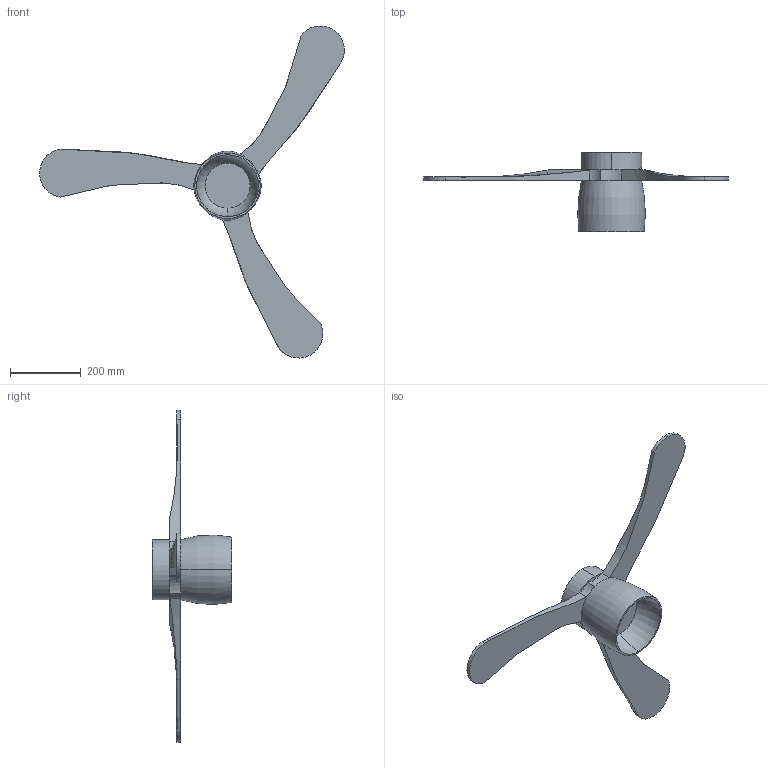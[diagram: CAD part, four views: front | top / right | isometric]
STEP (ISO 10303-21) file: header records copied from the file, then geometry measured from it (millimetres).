
FILE_DESCRIPTION (( 'STEP AP203' ), '1' );
FILE_NAME ('Nordic Wooden Ceiling Fan Light-42.STEP', '2025-01-17T02:51:49', ( '' ), ( '' ), 'SwSTEP 2.0', 'SolidWorks 2022', '' );
FILE_SCHEMA (( 'CONFIG_CONTROL_DESIGN' ));
Length unit declared in the file: millimetre
Products named in the file (1): Nordic Wooden Ceiling Fan Light-42
Bounding box: 862.59 x 225 x 939.52 mm (x, y, z)
Volume: 5930032.1 mm3; surface area: 543773.6 mm2
Topology: 2 solids, 2 shells, 54 faces, 114 edges, 63 vertices
Faces by surface type: cylinder 19, plane 18, bspline 15, torus 2
Entity records: 2536 total; most frequent: CARTESIAN_POINT 1400, ORIENTED_EDGE 222, DIRECTION 208, EDGE_CURVE 111, AXIS2_PLACEMENT_3D 90, VERTEX_POINT 63, EDGE_LOOP 56, ADVANCED_FACE 54
